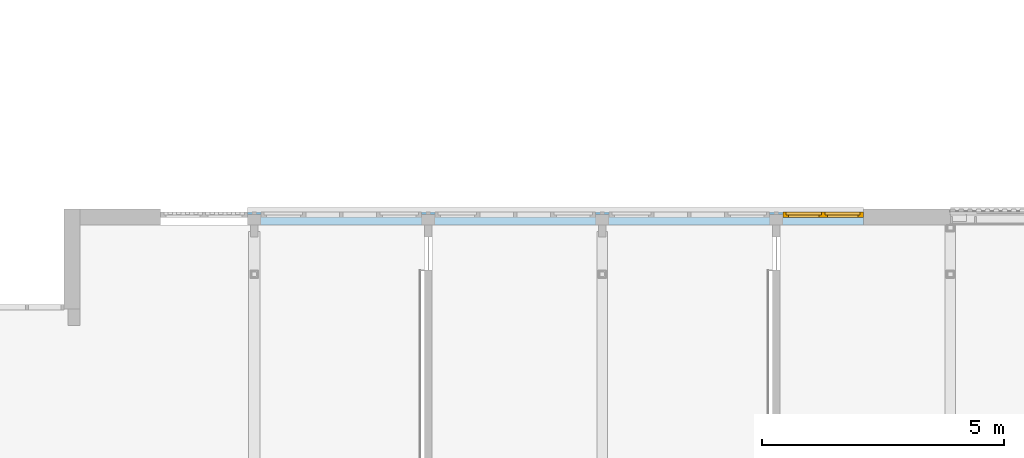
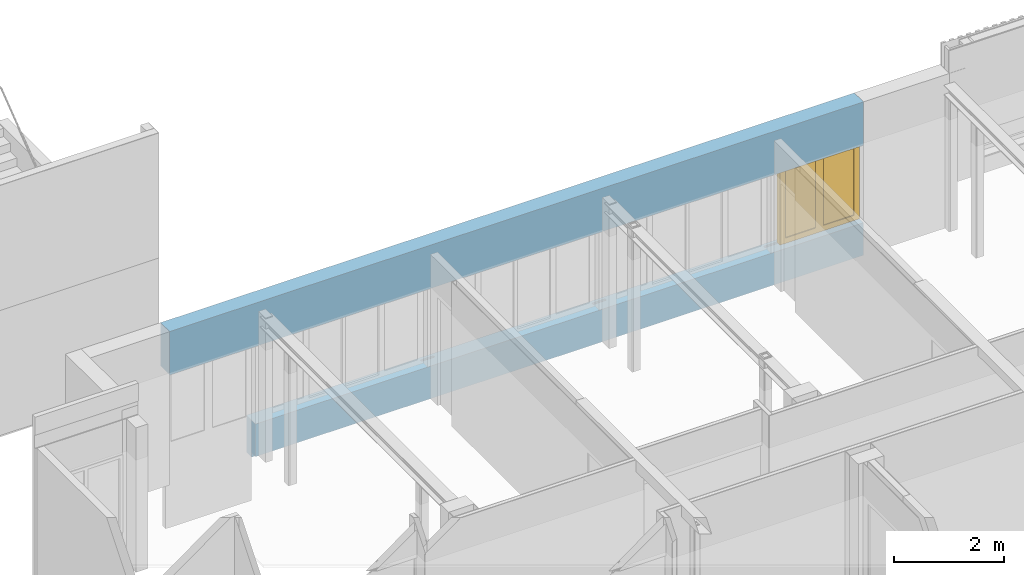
# One storey, part 30 of 99: 1 window, 5 openings, plus 1 element that does not belong to this part.
"""IFC2X3 building model written with IfcOpenShell, lengths in millimetres."""

from ifc_helpers import new_model, entity, si_unit, converted_unit, derived_unit, money_unit, direction, frame, origin_with_axes, place, context, subcontext, project, spatial, open_shell, faceted_brep, surface_model, material, type_object, element, fill, save


model = new_model("IFC2X3")

# Units and contexts
model_context = context("Model", 3, precision=0.01, world=origin_with_axes(), true_north=direction((0.0, 1.0)))
body_context = subcontext(model_context, "Body", "Model", "MODEL_VIEW")
ifc_project = project(units=[si_unit("LENGTHUNIT", "METRE", prefix="MILLI"), si_unit("AREAUNIT", "SQUARE_METRE"), si_unit("VOLUMEUNIT", "CUBIC_METRE"), converted_unit("PLANEANGLEUNIT", "DEGREE", entity("IfcPlaneAngleMeasure", 0.0174532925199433), si_unit("PLANEANGLEUNIT", "RADIAN"), dimensions=[0, 0, 0, 0, 0, 0, 0]), money_unit("EUR"), converted_unit("TIMEUNIT", "Year", entity("IfcTimeMeasure", 31557600.0), si_unit("TIMEUNIT", "SECOND"), dimensions=[0, 0, 1, 0, 0, 0, 0]), si_unit("MASSUNIT", "GRAM", prefix="KILO"), si_unit("THERMODYNAMICTEMPERATUREUNIT", "DEGREE_CELSIUS"), si_unit("LUMINOUSINTENSITYUNIT", "LUMEN"), si_unit("ENERGYUNIT", "JOULE", prefix="MEGA"), derived_unit("THERMALCONDUCTANCEUNIT", [(si_unit("POWERUNIT", "WATT"), 1), (si_unit("LENGTHUNIT", "METRE"), -1), (si_unit("THERMODYNAMICTEMPERATUREUNIT", "KELVIN"), -1)]), derived_unit("SPECIFICHEATCAPACITYUNIT", [(si_unit("ENERGYUNIT", "JOULE"), 1), (si_unit("MASSUNIT", "GRAM", prefix="KILO"), -1), (si_unit("THERMODYNAMICTEMPERATUREUNIT", "KELVIN"), -1)]), derived_unit("MASSDENSITYUNIT", [(si_unit("MASSUNIT", "GRAM", prefix="KILO"), 1), (si_unit("VOLUMEUNIT", "CUBIC_METRE"), -1)])], contexts=[model_context])

# Site, building, storey
site_placement = place(None, origin_with_axes())
site = spatial("IfcSite", under=ifc_project, at=site_placement, Name="Site", CompositionType="ELEMENT")
building_placement = place(site_placement, origin_with_axes())
building = spatial("IfcBuilding", under=site, at=building_placement, Name="Naam gebouw", CompositionType="ELEMENT")
storey_placement = place(building_placement, frame((0.0, 0.0, 7650.0), z_axis=(0.0, 0.0, 1.0), x_axis=(1.0, 0.0, 0.0)))
storey = spatial("IfcBuildingStorey", under=building, at=storey_placement, Name="2e verdieping N", CompositionType="ELEMENT", Elevation=7650.0)

# Wall, openings, window
ifc_material = material(Name="ALG - CONSTRUCTIEF")
wall_type = type_object("IfcWallType", Name="ALG - CONSTRUCTIEF 330", PredefinedType="NOTDEFINED")
wall_placement = place(storey_placement, frame((48601.18090496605, 27505.91242510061, -99.99999999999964), z_axis=(0.0, 0.0, 1.0), x_axis=(-1.0, 0.0, 0.0)))
wall = element("IfcWall", 1, at=wall_placement, inside=storey, type_object=wall_type, material=ifc_material, Name="_Wand-x", context=body_context, shape_type="Brep", body=[
    faceted_brep([(12738.68090496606, -259.9999999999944, 0.0), (12738.68090496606, -146.0000000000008, 0.0), (12738.68090496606, -146.0000000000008, 99.99999999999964), (12738.68090496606, -145.9999999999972, 820.0000000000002), (12738.68090496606, 0.0, 820.0000000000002), (12738.68090496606, -216.0000000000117, 820.0000000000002), (12738.68090496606, -259.9999999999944, 820.0000000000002), (12738.68090496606, -329.9999999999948, 820.0000000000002), (12738.68090496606, -329.9999999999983, 0.0), (0.0, -329.9999999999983, 0.0), (0.0, -145.6834109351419, 0.0), (0.0, -145.6834109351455, 99.99999999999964), (12738.68090496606, 0.0, 99.99999999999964), (0.0, 0.0, 820.0000000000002), (0.0, -329.9999999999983, 820.0000000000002), (12463.68090496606, -259.9999999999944, 820.0000000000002), (12463.68090496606, -216.0000000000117, 820.0000000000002), (1938.680904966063, -216.0000000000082, 820.0000000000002), (1938.680904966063, -259.999999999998, 820.0000000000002), (1663.680904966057, -259.999999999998, 820.0000000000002), (1663.680904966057, -216.0000000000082, 820.0000000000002), (5538.680904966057, -216.0000000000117, 820.0000000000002), (5538.680904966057, -259.999999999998, 820.0000000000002), (5263.680904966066, -259.999999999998, 820.0000000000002), (5263.680904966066, -216.0000000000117, 820.0000000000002), (8863.68090496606, -259.999999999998, 820.0000000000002), (8863.68090496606, -216.0000000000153, 820.0000000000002), (9138.680904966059, -216.0000000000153, 820.0000000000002), (9138.680904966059, -259.999999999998, 820.0000000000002), (0.0, 0.0, 99.99999999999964)], [[[0, 1, 2, 3, 4, 5, 6, 7, 8]], [[1, 0, 8, 9, 10]], [[2, 1, 10, 11]], [[3, 2, 12, 4]], [[5, 4, 13, 14, 7, 6, 15, 16], [17, 18, 19, 20], [21, 22, 23, 24], [25, 26, 27, 28]], [[6, 5, 16, 15]], [[7, 14, 9, 8]], [[13, 29, 11, 10, 9, 14]], [[2, 11, 29, 12]], [[29, 13, 4, 12]], [[18, 17, 20, 19]], [[22, 21, 24, 23]], [[26, 25, 28, 27]]]),
    faceted_brep([(12738.68090496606, -216.0000000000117, 2539.999999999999), (12738.68090496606, -259.9999999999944, 2539.999999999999), (12463.68090496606, -259.9999999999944, 2540.000000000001), (12463.68090496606, -216.0000000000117, 2540.000000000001), (12738.68090496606, 0.0, 2539.999999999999), (14538.68090496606, 0.0, 2539.999999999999), (14538.68090496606, -259.9999999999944, 2539.999999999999), (14538.68090496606, -329.9999999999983, 2539.999999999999), (0.0, -329.9999999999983, 2540.000000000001), (0.0, 0.0, 2540.000000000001), (1938.680904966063, -259.999999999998, 2540.000000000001), (1938.680904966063, -216.0000000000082, 2540.000000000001), (1663.680904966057, -216.0000000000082, 2540.000000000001), (1663.680904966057, -259.999999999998, 2540.000000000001), (5538.680904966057, -216.0000000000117, 2540.000000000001), (5263.680904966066, -216.0000000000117, 2540.000000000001), (5263.680904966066, -259.999999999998, 2540.000000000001), (5538.680904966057, -259.999999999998, 2540.000000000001), (8863.68090496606, -259.999999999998, 2540.000000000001), (9138.680904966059, -259.999999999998, 2540.000000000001), (9138.680904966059, -216.0000000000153, 2540.000000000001), (8863.68090496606, -216.0000000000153, 2540.000000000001), (0.0, 0.0, 3500.0), (14538.68090496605, 0.0, 3500.0), (14538.68090496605, -329.9999999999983, 3500.0), (0.0, -329.9999999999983, 3500.0)], [[[0, 1, 2, 3]], [[4, 5, 6, 7, 8, 9], [10, 11, 12, 13], [14, 15, 16, 17], [18, 19, 20, 21], [0, 3, 2, 1]], [[5, 4, 9, 22, 23]], [[6, 5, 23, 24, 7]], [[24, 25, 8, 7]], [[25, 22, 9, 8]], [[11, 10, 13, 12]], [[14, 17, 16, 15]], [[18, 21, 20, 19]], [[23, 22, 25, 24]]]),
])
opening_1_placement = place(wall_placement, frame((3601.180904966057, 0.0, 820.0000000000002), z_axis=(0.0, 0.0, 1.0), x_axis=(1.0, 0.0, 0.0)))
element("IfcOpeningElement", 2, at=opening_1_placement, cuts=wall, Name="_Merk-052", context=body_context, shape_type="Brep", body=[
    faceted_brep([(1937.5, -259.999999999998, 0.0), (1937.5, -259.999999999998, 1720.000000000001), (1937.5, -331.0000000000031, 1720.000000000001), (1937.5, -331.0000000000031, 0.0), (1937.5, 1.000000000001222, 0.0), (1937.5, 1.000000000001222, 1720.000000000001), (-1937.5, -259.999999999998, 1720.000000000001), (-1937.5, -331.0000000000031, 1720.000000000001), (-1937.5, 1.000000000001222, 1720.000000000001), (-1937.5, -331.0000000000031, 0.0), (-1937.5, -259.999999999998, 0.0), (-1937.5, 1.000000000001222, 0.0)], [[[0, 1, 2, 3]], [[1, 0, 4, 5]], [[6, 7, 2, 1, 5, 8]], [[7, 9, 3, 2]], [[0, 3, 9, 10, 11, 4]], [[5, 4, 11, 8]], [[6, 10, 9, 7]], [[10, 6, 8, 11]]]),
])
opening_2_placement = place(wall_placement, frame((831.8404524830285, 0.0, 820.0000000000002), z_axis=(0.0, 0.0, 1.0), x_axis=(1.0, 0.0, 0.0)))
opening_2 = element("IfcOpeningElement", 3, at=opening_2_placement, cuts=wall, Name="_Merk-051", context=body_context, shape_type="Brep", body=[
    faceted_brep([(831.8404524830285, -259.999999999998, 0.0), (831.8404524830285, -259.999999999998, 1720.000000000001), (831.8404524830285, -331.0000000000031, 1720.000000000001), (831.8404524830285, -331.0000000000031, 0.0), (831.8404524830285, 1.000000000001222, 0.0), (831.8404524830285, 1.000000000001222, 1720.000000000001), (-831.8404524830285, -259.999999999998, 1720.000000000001), (-831.8404524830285, -331.0000000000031, 1720.000000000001), (-831.8404524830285, 1.000000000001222, 1720.000000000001), (-831.8404524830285, -331.0000000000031, 0.0), (-831.8404524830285, -259.999999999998, 0.0), (-831.8404524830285, 1.000000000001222, 0.0)], [[[0, 1, 2, 3]], [[1, 0, 4, 5]], [[6, 7, 2, 1, 5, 8]], [[7, 9, 3, 2]], [[0, 3, 9, 10, 11, 4]], [[5, 4, 11, 8]], [[6, 10, 9, 7]], [[10, 6, 8, 11]]]),
])
opening_3_placement = place(wall_placement, frame((7201.180904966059, 0.0, 820.0000000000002), z_axis=(0.0, 0.0, 1.0), x_axis=(1.0, 0.0, 0.0)))
element("IfcOpeningElement", 4, at=opening_3_placement, cuts=wall, Name="_Merk-052", context=body_context, shape_type="Brep", body=[
    faceted_brep([(1937.5, -259.999999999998, 0.0), (1937.5, -259.999999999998, 1720.000000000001), (1937.5, -331.0000000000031, 1720.000000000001), (1937.5, -331.0000000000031, 0.0), (1937.5, 1.000000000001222, 0.0), (1937.5, 1.000000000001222, 1720.000000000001), (-1937.5, -259.999999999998, 1720.000000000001), (-1937.5, -331.0000000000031, 1720.000000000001), (-1937.5, 1.000000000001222, 1720.000000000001), (-1937.5, -331.0000000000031, 0.0), (-1937.5, -259.999999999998, 0.0), (-1937.5, 1.000000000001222, 0.0)], [[[0, 1, 2, 3]], [[1, 0, 4, 5]], [[6, 7, 2, 1, 5, 8]], [[7, 9, 3, 2]], [[0, 3, 9, 10, 11, 4]], [[5, 4, 11, 8]], [[6, 10, 9, 7]], [[10, 6, 8, 11]]]),
])
opening_4_placement = place(wall_placement, frame((13638.68090496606, 0.0, -960.0000000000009), z_axis=(0.0, 0.0, 1.0), x_axis=(1.0, 0.0, 0.0)))
element("IfcOpeningElement", 5, at=opening_4_placement, cuts=wall, Name="_Merk-051", context=body_context, shape_type="Brep", body=[
    faceted_brep([(899.9999999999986, -259.9999999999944, -1060.0), (899.9999999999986, -259.9999999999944, 3500.0), (899.9999999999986, -330.9999999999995, 3500.0), (899.9999999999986, -330.9999999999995, -1060.0), (899.9999999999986, 1.000000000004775, -1060.0), (899.9999999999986, 1.000000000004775, 3500.0), (-899.9999999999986, -259.9999999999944, 3500.0), (-899.9999999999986, -330.9999999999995, 3500.0), (-899.9999999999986, 1.000000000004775, 3500.0), (-899.9999999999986, -330.9999999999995, -1060.0), (-899.9999999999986, -259.9999999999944, -1060.0), (-899.9999999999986, 1.000000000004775, -1060.0)], [[[0, 1, 2, 3]], [[1, 0, 4, 5]], [[6, 7, 2, 1, 5, 8]], [[7, 9, 3, 2]], [[0, 3, 9, 10, 11, 4]], [[5, 4, 11, 8]], [[6, 10, 9, 7]], [[10, 6, 8, 11]]]),
])
opening_5_placement = place(wall_placement, frame((10801.18090496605, 0.0, 820.0000000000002), z_axis=(0.0, 0.0, 1.0), x_axis=(1.0, 0.0, 0.0)))
element("IfcOpeningElement", 6, at=opening_5_placement, cuts=wall, Name="_Merk-052", context=body_context, shape_type="Brep", body=[
    faceted_brep([(1937.5, -259.9999999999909, 0.0), (1937.5, -259.9999999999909, 1720.000000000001), (1937.5, -330.999999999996, 1720.000000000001), (1937.5, -330.999999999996, 0.0), (1937.5, 1.000000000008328, 0.0), (1937.5, 1.000000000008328, 1720.000000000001), (-1937.5, -259.9999999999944, 1720.000000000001), (-1937.5, -330.9999999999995, 1720.000000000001), (-1937.5, 1.000000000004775, 1720.000000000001), (-1937.5, -330.9999999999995, 0.0), (-1937.5, -259.9999999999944, 0.0), (-1937.5, 1.000000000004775, 0.0)], [[[0, 1, 2, 3]], [[1, 0, 4, 5]], [[6, 7, 2, 1, 5, 8]], [[7, 9, 3, 2]], [[0, 3, 9, 10, 11, 4]], [[5, 4, 11, 8]], [[6, 10, 9, 7]], [[10, 6, 8, 11]]]),
])
window_style = type_object("IfcWindowStyle", Name="R2 bl ol 26", ConstructionType="NOTDEFINED", OperationType="DOUBLE_PANEL_VERTICAL", ParameterTakesPrecedence=False, Sizeable=False)
window_placement = place(opening_2_placement, frame((-831.8404524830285, 0.0, 0.0), z_axis=(0.0, 0.0, 1.0), x_axis=(1.0, 0.0, 0.0)))
window = element("IfcWindow", 7, at=window_placement, inside=storey, type_object=window_style, Name="_Merk-051", ObjectType="WINDOW", OverallHeight=1720.0, OverallWidth=1663.68, context=body_context, shape_type="SurfaceModel", body=[
    faceted_brep([(1613.68090496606, -145.9999999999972, 1653.0), (1613.68090496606, -199.9999999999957, 1653.0), (1596.680904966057, -199.9999999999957, 1653.0), (1596.680904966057, -259.999999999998, 1653.0), (1663.680904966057, -259.999999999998, 1653.0), (1663.680904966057, -145.9999999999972, 1653.0), (1613.68090496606, -145.9999999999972, 67.00000000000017), (1613.68090496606, -199.9999999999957, 67.00000000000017), (1596.680904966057, -199.9999999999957, 67.00000000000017), (1596.680904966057, -259.999999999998, 67.00000000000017), (1663.680904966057, -259.999999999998, 67.00000000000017), (1663.680904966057, -145.9999999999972, 67.00000000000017)], [[[0, 1, 2, 3, 4, 5]], [[1, 0, 6, 7]], [[8, 2, 1, 7]], [[2, 8, 9, 3]], [[4, 3, 9, 10]], [[5, 4, 10, 11]], [[6, 0, 5, 11]], [[7, 6, 11, 10, 9, 8]]]),
    faceted_brep([(67.00000000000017, -199.9999999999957, 1653.0), (49.99999999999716, -199.9999999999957, 1653.0), (49.99999999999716, -145.9999999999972, 1653.0), (0.0, -145.9999999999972, 1653.0), (0.0, -259.999999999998, 1653.0), (67.00000000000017, -259.999999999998, 1653.0), (67.00000000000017, -199.9999999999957, 67.00000000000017), (49.99999999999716, -199.9999999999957, 67.00000000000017), (49.99999999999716, -145.9999999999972, 67.00000000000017), (0.0, -145.9999999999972, 67.00000000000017), (0.0, -259.999999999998, 67.00000000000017), (67.00000000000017, -259.999999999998, 67.00000000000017)], [[[0, 1, 2, 3, 4, 5]], [[1, 0, 6, 7]], [[8, 2, 1, 7]], [[2, 8, 9, 3]], [[9, 10, 4, 3]], [[10, 11, 5, 4]], [[6, 0, 5, 11]], [[7, 6, 11, 10, 9, 8]]]),
    faceted_brep([(865.3404524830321, -199.9999999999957, 1653.0), (848.3404524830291, -199.9999999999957, 1653.0), (848.3404524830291, -145.9999999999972, 1653.0), (815.3404524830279, -145.9999999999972, 1653.0), (815.3404524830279, -199.9999999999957, 1653.0), (798.340452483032, -199.9999999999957, 1653.0), (798.340452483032, -259.999999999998, 1653.0), (865.3404524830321, -259.999999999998, 1653.0), (865.3404524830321, -199.9999999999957, 67.00000000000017), (848.3404524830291, -199.9999999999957, 67.00000000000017), (848.3404524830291, -145.9999999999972, 67.00000000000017), (815.3404524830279, -145.9999999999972, 67.00000000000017), (815.3404524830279, -199.9999999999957, 67.00000000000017), (798.340452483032, -199.9999999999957, 67.00000000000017), (798.340452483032, -259.999999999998, 67.00000000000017), (865.3404524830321, -259.999999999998, 67.00000000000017)], [[[0, 1, 2, 3, 4, 5, 6, 7]], [[1, 0, 8, 9]], [[10, 2, 1, 9]], [[2, 10, 11, 3]], [[4, 3, 11, 12]], [[13, 5, 4, 12]], [[5, 13, 14, 6]], [[14, 15, 7, 6]], [[8, 0, 7, 15]], [[9, 8, 15, 14, 13, 12, 11, 10]]]),
    faceted_brep([(865.3404524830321, -199.9999999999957, 67.00000000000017), (848.3404524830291, -199.9999999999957, 67.00000000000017), (848.3404524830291, -145.9999999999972, 67.00000000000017), (815.3404524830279, -145.9999999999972, 67.00000000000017), (815.3404524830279, -199.9999999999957, 67.00000000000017), (798.340452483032, -199.9999999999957, 67.00000000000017), (798.340452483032, -259.999999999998, 67.00000000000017), (865.3404524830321, -259.999999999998, 67.00000000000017), (1596.680904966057, -199.9999999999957, 67.00000000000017), (1613.68090496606, -199.9999999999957, 67.00000000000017), (1613.68090496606, -199.9999999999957, 50.00000000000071), (848.3404524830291, -199.9999999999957, 50.00000000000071), (848.3404524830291, -145.9999999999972, 50.00000000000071), (1613.68090496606, -145.9999999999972, 50.00000000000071), (1613.68090496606, -145.9999999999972, 67.00000000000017), (1663.680904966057, -145.9999999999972, 67.00000000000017), (1663.680904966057, -145.9999999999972, 0.0), (0.0, -145.9999999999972, 0.0), (0.0, -145.9999999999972, 67.00000000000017), (49.99999999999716, -145.9999999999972, 67.00000000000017), (49.99999999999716, -145.9999999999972, 50.00000000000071), (815.3404524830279, -145.9999999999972, 50.00000000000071), (815.3404524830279, -199.9999999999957, 50.00000000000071), (49.99999999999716, -199.9999999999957, 67.00000000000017), (67.00000000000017, -199.9999999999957, 67.00000000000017), (49.99999999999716, -199.9999999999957, 50.00000000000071), (67.00000000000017, -259.999999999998, 67.00000000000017), (1663.680904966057, -259.999999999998, 67.00000000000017), (1596.680904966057, -259.999999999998, 67.00000000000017), (0.0, -259.999999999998, 67.00000000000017), (0.0, -259.999999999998, 0.0), (1663.680904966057, -259.999999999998, 0.0)], [[[0, 1, 2, 3, 4, 5, 6, 7]], [[1, 0, 8, 9, 10, 11]], [[12, 2, 1, 11]], [[13, 14, 15, 16, 17, 18, 19, 20, 21, 3, 2, 12]], [[4, 3, 21, 22]], [[23, 24, 5, 4, 22, 25]], [[5, 24, 26, 6]], [[27, 28, 7, 6, 26, 29, 30, 31]], [[8, 0, 7, 28]], [[9, 8, 28, 27, 15, 14]], [[9, 14, 13, 10]], [[13, 12, 11, 10]], [[15, 27, 31, 16]], [[16, 31, 30, 17]], [[17, 30, 29, 18]], [[24, 23, 19, 18, 29, 26]], [[20, 19, 23, 25]], [[21, 20, 25, 22]]]),
    faceted_brep([(1613.68090496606, -145.9999999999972, 1653.0), (1613.68090496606, -145.9999999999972, 1670.0), (848.3404524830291, -145.9999999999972, 1670.0), (848.3404524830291, -145.9999999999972, 1653.0), (815.3404524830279, -145.9999999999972, 1653.0), (815.3404524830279, -145.9999999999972, 1670.0), (49.99999999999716, -145.9999999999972, 1670.0), (49.99999999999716, -145.9999999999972, 1653.0), (0.0, -145.9999999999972, 1653.0), (0.0, -145.9999999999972, 1720.000000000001), (1663.680904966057, -145.9999999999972, 1720.000000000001), (1663.680904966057, -145.9999999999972, 1653.0), (1613.68090496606, -199.9999999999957, 1653.0), (1613.68090496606, -199.9999999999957, 1670.0), (848.3404524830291, -199.9999999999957, 1670.0), (848.3404524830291, -199.9999999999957, 1653.0), (865.3404524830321, -199.9999999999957, 1653.0), (865.3404524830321, -259.999999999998, 1653.0), (798.340452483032, -259.999999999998, 1653.0), (798.340452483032, -199.9999999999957, 1653.0), (815.3404524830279, -199.9999999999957, 1653.0), (815.3404524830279, -199.9999999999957, 1670.0), (49.99999999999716, -199.9999999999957, 1670.0), (49.99999999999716, -199.9999999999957, 1653.0), (67.00000000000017, -199.9999999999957, 1653.0), (67.00000000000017, -259.999999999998, 1653.0), (0.0, -259.999999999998, 1653.0), (0.0, -259.999999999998, 1720.000000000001), (1663.680904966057, -259.999999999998, 1720.000000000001), (1663.680904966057, -259.999999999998, 1653.0), (1596.680904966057, -259.999999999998, 1653.0), (1596.680904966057, -199.9999999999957, 1653.0)], [[[0, 1, 2, 3, 4, 5, 6, 7, 8, 9, 10, 11]], [[1, 0, 12, 13]], [[2, 1, 13, 14]], [[3, 2, 14, 15]], [[15, 16, 17, 18, 19, 20, 4, 3]], [[5, 4, 20, 21]], [[6, 5, 21, 22]], [[7, 6, 22, 23]], [[23, 24, 25, 26, 8, 7]], [[8, 26, 27, 9]], [[9, 27, 28, 10]], [[10, 28, 29, 11]], [[12, 0, 11, 29, 30, 31]], [[16, 15, 14, 13, 12, 31]], [[16, 31, 30, 17]], [[18, 17, 30, 29, 28, 27, 26, 25]], [[24, 19, 18, 25]], [[24, 23, 22, 21, 20, 19]]]),
    faceted_brep([(1546.68090496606, -199.9999999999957, 1603.0), (1613.68090496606, -199.9999999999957, 1603.0), (1613.68090496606, -145.9999999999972, 1603.0), (1546.68090496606, -145.9999999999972, 1603.0), (1546.68090496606, -199.9999999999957, 117.0000000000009), (1613.68090496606, -199.9999999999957, 117.0000000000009), (1613.68090496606, -145.9999999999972, 117.0000000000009), (1546.68090496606, -145.9999999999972, 117.0000000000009)], [[[0, 1, 2, 3]], [[0, 4, 5, 1]], [[1, 5, 6, 2]], [[3, 2, 6, 7]], [[4, 0, 3, 7]], [[5, 4, 7, 6]]]),
    faceted_brep([(915.3404524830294, -199.9999999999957, 117.0000000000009), (848.3404524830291, -199.9999999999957, 117.0000000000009), (848.3404524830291, -145.9999999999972, 117.0000000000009), (915.3404524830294, -145.9999999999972, 117.0000000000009), (915.3404524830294, -199.9999999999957, 1603.0), (848.3404524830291, -199.9999999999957, 1603.0), (848.3404524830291, -145.9999999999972, 1603.0), (915.3404524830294, -145.9999999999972, 1603.0)], [[[0, 1, 2, 3]], [[0, 4, 5, 1]], [[1, 5, 6, 2]], [[3, 2, 6, 7]], [[4, 0, 3, 7]], [[5, 4, 7, 6]]]),
    faceted_brep([(848.3404524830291, -199.9999999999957, 50.00000000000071), (848.3404524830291, -199.9999999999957, 117.0000000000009), (848.3404524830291, -145.9999999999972, 117.0000000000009), (848.3404524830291, -145.9999999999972, 50.00000000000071), (1613.68090496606, -199.9999999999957, 50.00000000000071), (1613.68090496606, -199.9999999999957, 117.0000000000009), (1546.68090496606, -199.9999999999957, 117.0000000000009), (915.3404524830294, -199.9999999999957, 117.0000000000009), (915.3404524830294, -145.9999999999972, 117.0000000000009), (1546.68090496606, -145.9999999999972, 117.0000000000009), (1613.68090496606, -145.9999999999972, 117.0000000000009), (1613.68090496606, -145.9999999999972, 50.00000000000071)], [[[0, 1, 2, 3]], [[0, 4, 5, 6, 7, 1]], [[1, 7, 8, 2]], [[3, 2, 8, 9, 10, 11]], [[4, 0, 3, 11]], [[5, 4, 11, 10]], [[6, 5, 10, 9]], [[7, 6, 9, 8]]]),
    faceted_brep([(1613.68090496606, -199.9999999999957, 1670.0), (1613.68090496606, -199.9999999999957, 1603.0), (1613.68090496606, -145.9999999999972, 1603.0), (1613.68090496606, -145.9999999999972, 1670.0), (848.3404524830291, -199.9999999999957, 1670.0), (848.3404524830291, -199.9999999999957, 1603.0), (915.3404524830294, -199.9999999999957, 1603.0), (1546.68090496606, -199.9999999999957, 1603.0), (1546.68090496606, -145.9999999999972, 1603.0), (915.3404524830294, -145.9999999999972, 1603.0), (848.3404524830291, -145.9999999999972, 1603.0), (848.3404524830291, -145.9999999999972, 1670.0)], [[[0, 1, 2, 3]], [[0, 4, 5, 6, 7, 1]], [[1, 7, 8, 2]], [[3, 2, 8, 9, 10, 11]], [[4, 0, 3, 11]], [[5, 4, 11, 10]], [[6, 5, 10, 9]], [[7, 6, 9, 8]]]),
    surface_model("IfcShellBasedSurfaceModel", [(1546.68090496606, -182.9999999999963, 117.0000000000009), (1546.68090496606, -182.9999999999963, 1603.0), (915.3404524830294, -182.9999999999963, 1603.0), (915.3404524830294, -182.9999999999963, 117.0000000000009)], [open_shell([[[0, 1, 2, 3]]])]),
    surface_model("IfcShellBasedSurfaceModel", [(1546.68090496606, -162.9999999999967, 117.0000000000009), (915.3404524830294, -162.9999999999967, 117.0000000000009), (915.3404524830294, -162.9999999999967, 1603.0), (1546.68090496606, -162.9999999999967, 1603.0)], [open_shell([[[0, 1, 2, 3]]])]),
    faceted_brep([(748.3404524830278, -199.9999999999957, 1603.0), (815.3404524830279, -199.9999999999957, 1603.0), (815.3404524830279, -145.9999999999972, 1603.0), (748.3404524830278, -145.9999999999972, 1603.0), (748.3404524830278, -199.9999999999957, 117.0000000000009), (815.3404524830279, -199.9999999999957, 117.0000000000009), (815.3404524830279, -145.9999999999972, 117.0000000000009), (748.3404524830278, -145.9999999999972, 117.0000000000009)], [[[0, 1, 2, 3]], [[0, 4, 5, 1]], [[1, 5, 6, 2]], [[3, 2, 6, 7]], [[4, 0, 3, 7]], [[5, 4, 7, 6]]]),
    faceted_brep([(116.9999999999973, -199.9999999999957, 117.0000000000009), (49.99999999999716, -199.9999999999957, 117.0000000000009), (49.99999999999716, -145.9999999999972, 117.0000000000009), (116.9999999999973, -145.9999999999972, 117.0000000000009), (116.9999999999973, -199.9999999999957, 1603.0), (49.99999999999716, -199.9999999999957, 1603.0), (49.99999999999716, -145.9999999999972, 1603.0), (116.9999999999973, -145.9999999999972, 1603.0)], [[[0, 1, 2, 3]], [[0, 4, 5, 1]], [[1, 5, 6, 2]], [[3, 2, 6, 7]], [[4, 0, 3, 7]], [[5, 4, 7, 6]]]),
    faceted_brep([(49.99999999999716, -199.9999999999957, 50.00000000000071), (49.99999999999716, -199.9999999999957, 117.0000000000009), (49.99999999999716, -145.9999999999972, 117.0000000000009), (49.99999999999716, -145.9999999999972, 50.00000000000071), (815.3404524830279, -199.9999999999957, 50.00000000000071), (815.3404524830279, -199.9999999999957, 117.0000000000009), (748.3404524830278, -199.9999999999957, 117.0000000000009), (116.9999999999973, -199.9999999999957, 117.0000000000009), (116.9999999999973, -145.9999999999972, 117.0000000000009), (748.3404524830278, -145.9999999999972, 117.0000000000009), (815.3404524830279, -145.9999999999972, 117.0000000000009), (815.3404524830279, -145.9999999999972, 50.00000000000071)], [[[0, 1, 2, 3]], [[0, 4, 5, 6, 7, 1]], [[1, 7, 8, 2]], [[3, 2, 8, 9, 10, 11]], [[4, 0, 3, 11]], [[5, 4, 11, 10]], [[6, 5, 10, 9]], [[7, 6, 9, 8]]]),
    faceted_brep([(815.3404524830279, -199.9999999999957, 1670.0), (815.3404524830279, -199.9999999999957, 1603.0), (815.3404524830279, -145.9999999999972, 1603.0), (815.3404524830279, -145.9999999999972, 1670.0), (49.99999999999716, -199.9999999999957, 1670.0), (49.99999999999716, -199.9999999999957, 1603.0), (116.9999999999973, -199.9999999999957, 1603.0), (748.3404524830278, -199.9999999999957, 1603.0), (748.3404524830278, -145.9999999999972, 1603.0), (116.9999999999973, -145.9999999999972, 1603.0), (49.99999999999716, -145.9999999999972, 1603.0), (49.99999999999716, -145.9999999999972, 1670.0)], [[[0, 1, 2, 3]], [[0, 4, 5, 6, 7, 1]], [[1, 7, 8, 2]], [[3, 2, 8, 9, 10, 11]], [[4, 0, 3, 11]], [[5, 4, 11, 10]], [[6, 5, 10, 9]], [[7, 6, 9, 8]]]),
    surface_model("IfcShellBasedSurfaceModel", [(748.3404524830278, -182.9999999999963, 117.0000000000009), (748.3404524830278, -182.9999999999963, 1603.0), (116.9999999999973, -182.9999999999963, 1603.0), (116.9999999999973, -182.9999999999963, 117.0000000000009)], [open_shell([[[0, 1, 2, 3]]])]),
    surface_model("IfcShellBasedSurfaceModel", [(748.3404524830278, -162.9999999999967, 117.0000000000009), (116.9999999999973, -162.9999999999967, 117.0000000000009), (116.9999999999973, -162.9999999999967, 1603.0), (748.3404524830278, -162.9999999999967, 1603.0)], [open_shell([[[0, 1, 2, 3]]])]),
])
fill(opening_2, window)

save(model, "model.ifc")
